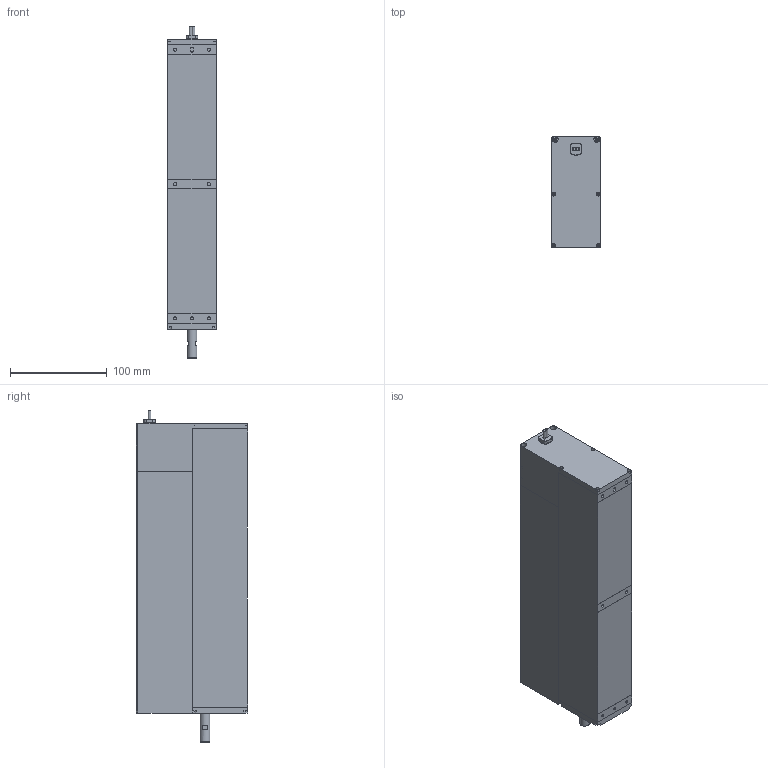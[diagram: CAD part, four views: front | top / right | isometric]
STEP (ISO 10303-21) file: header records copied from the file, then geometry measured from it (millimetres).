
FILE_DESCRIPTION((''),'2;1');
FILE_NAME('F:\LCA 50-100 EXPORT.stp','2012-11-12T11:16:13',('karl'),(''),'Autodesk Inventor 2008','Autodesk Inventor 2008','');
FILE_SCHEMA(('AUTOMOTIVE_DESIGN { 1 0 10303 214 1 1 1 1 }'));
Length unit declared in the file: millimetre
Products named in the file (10): LCA 50-100-STP; BODY-LCA50-100mark; MAG HSG 50-100MARK; LCA 50 FRONT PLATE; CONN COVER; FEMALE SHAFT-100; FRELON BUSHING; C-POLE 50-100MARK; BUSHING RETAINER 100-1; CABLE-G
Assembly tree (9 placements, depth 2):
  LCA 50-100-STP
    BODY-LCA50-100mark
    MAG HSG 50-100MARK
    LCA 50 FRONT PLATE
    CONN COVER
    FEMALE SHAFT-100
    FRELON BUSHING
    C-POLE 50-100MARK
    BUSHING RETAINER 100-1
    CABLE-G
Bounding box: 50 x 115.1 x 343.5 mm (x, y, z)
Volume: 1562244.2 mm3; surface area: 225999.7 mm2
Topology: 9 solids, 10 shells, 321 faces, 782 edges, 499 vertices
Faces by surface type: plane 174, cylinder 115, cone 24, torus 8
Full cylindrical faces by diameter (mm): 1.567 x12, 2.459 x8, 2.5 x11, 3 x4, 3.2 x4, 3.242 x7, 3.5 x4, 3.8 x4, 4 x1, 4.3 x3, 4.917 x1, 6 x12, 10 x2, 10.5 x1, 12.3 x2, 12.5 x2, 13 x1, 16.5 x1, 17 x1, 25.5 x1, 26 x1
Entity records: 9075 total; most frequent: DIRECTION 1585, CARTESIAN_POINT 1497, ORIENTED_EDGE 1296, EDGE_CURVE 648, AXIS2_PLACEMENT_3D 601, EDGE_LOOP 505, VERTEX_POINT 469, VECTOR 383
